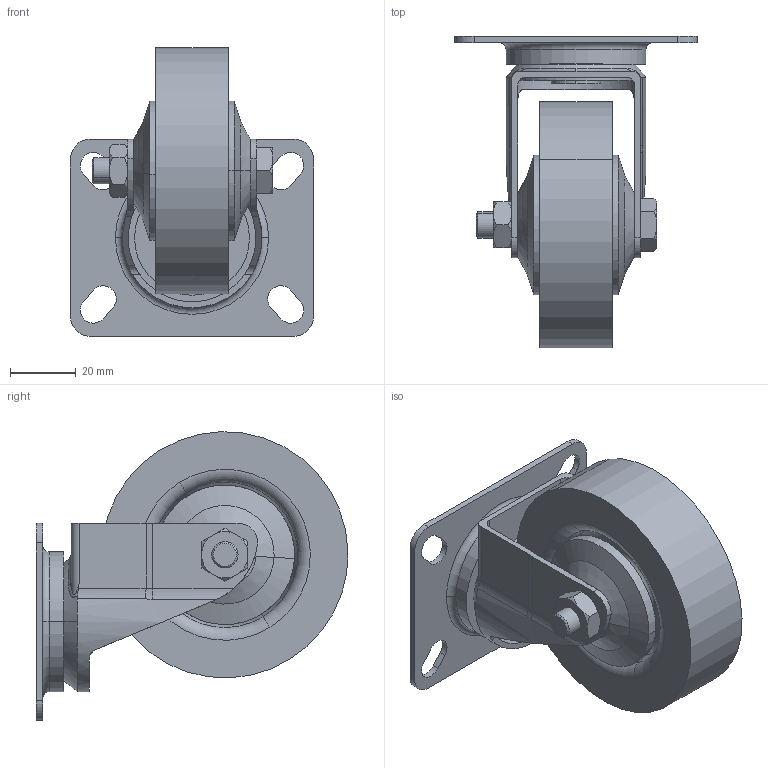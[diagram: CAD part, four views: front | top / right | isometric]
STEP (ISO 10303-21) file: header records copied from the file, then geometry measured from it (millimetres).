
FILE_DESCRIPTION (( 'STEP AP214' ), '1' );
FILE_NAME ('SNSD.30.50.78. Êîëåñî áåç òîðìîçà O75 ñ ïëàòôîðìîé(H51).STEP', '2014-12-16T13:04:20', ( 'XTreme.ws' ), ( 'XTreme.ws' ), 'SwSTEP 2.0', 'SolidWorks 2014', '' );
FILE_SCHEMA (( 'AUTOMOTIVE_DESIGN' ));
Length unit declared in the file: millimetre
Products named in the file (16): SNSD.30.50.71. ﾎ(H51)_00; SNSD.30.50.71. Ïîäïèøïèêîâûé óçåë(H51)_00; SNSD.30.50.71. 青蜞(H51)_00; SNSD.30.50.71. Ãàéêà(H51)_00; SNSD.30.50.71. 鍔錓(H51)_00; SNSD.30.50.71. 扻錼勷(H51)_00; SNSD.30.50.71. Îïîðà(H51)H50_00; SNSD.30.50.71. ﾎ(H51); SNSD.30.50.71. Ïîäïèøïèêîâûé óçåë(H51); SNSD.30.50.71. 青蜞(H51); SNSD.30.50.71. Ãàéêà(H51); SNSD.30.50.71. 鍔錓(H51); SNSD.30.50.71. 扻錼勷(H51); SNSD.30.50.71. Îïîðà(H51)H50; SNSD.30.50.78. Êîëåñî áåç òîðìîçà O75  ñ ïëàòôîðìîé(H51)
Assembly tree (8 placements, depth 2):
  SNSD.30.50.71. ﾎ(H51)
  SNSD.30.50.71. Ïîäïèøïèêîâûé óçåë(H51)
  SNSD.30.50.71. 青蜞(H51)
  SNSD.30.50.71. 青蜞(H51)
  SNSD.30.50.71. Ãàéêà(H51)
Bounding box: 74 x 94.98 x 87.88 mm (x, y, z)
Volume: 106935.8 mm3; surface area: 50960.1 mm2
Topology: 8 solids, 8 shells, 228 faces, 544 edges, 346 vertices
Faces by surface type: cylinder 83, plane 69, cone 46, torus 26, bspline 4
Entity records: 7277 total; most frequent: CARTESIAN_POINT 1802, DIRECTION 1100, ORIENTED_EDGE 1020, EDGE_CURVE 510, AXIS2_PLACEMENT_3D 450, VERTEX_POINT 326, EDGE_LOOP 246, CIRCLE 231
